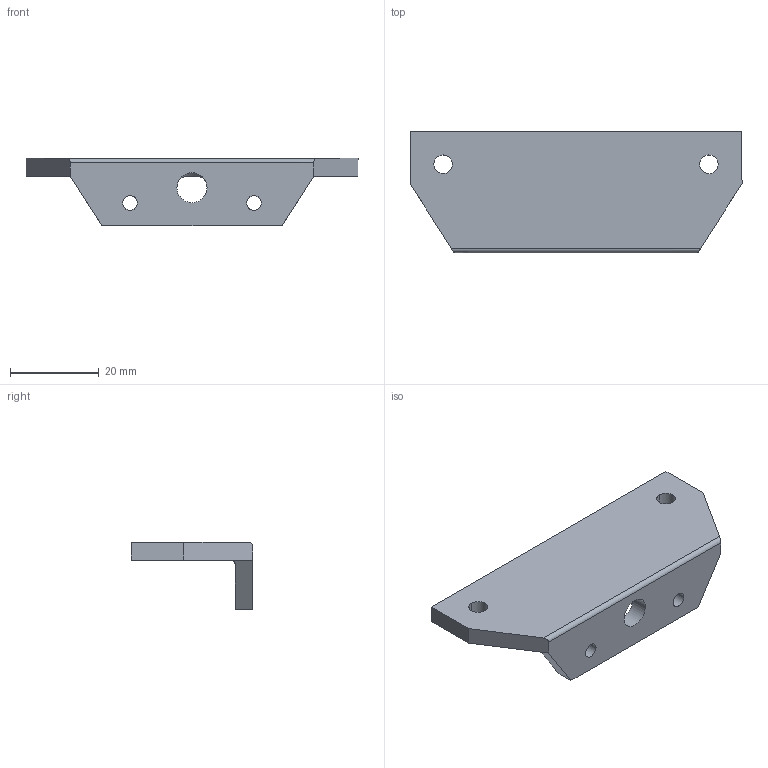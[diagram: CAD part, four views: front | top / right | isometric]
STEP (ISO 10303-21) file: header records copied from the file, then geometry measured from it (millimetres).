
FILE_DESCRIPTION(/* description */ (''),/* implementation_level */ '2;1');
FILE_NAME(/* name */ 'SAMPLE~1',/* time_stamp */ '2023-11-14T13:50:37+01:00',/* author */ (''),/* organization */ (''),/* preprocessor_version */ 'ST-DEVELOPER v16.5',/* originating_system */ '',/* authorisation */ '');
FILE_SCHEMA (('AUTOMOTIVE_DESIGN'));
Length unit declared in the file: millimetre
Products named in the file (1): Document
Bounding box: 75 x 27.5 x 15.15 mm (x, y, z)
Volume: 9433.1 mm3; surface area: 5763.2 mm2
Topology: 1 solids, 1 shells, 25 faces, 68 edges, 44 vertices
Faces by surface type: bspline 13, plane 12
Entity records: 925 total; most frequent: CARTESIAN_POINT 487, ORIENTED_EDGE 136, EDGE_CURVE 68, VERTEX_POINT 44, B_SPLINE_CURVE_WITH_KNOTS 36, EDGE_LOOP 34, ADVANCED_FACE 25, FACE_OUTER_BOUND 25
